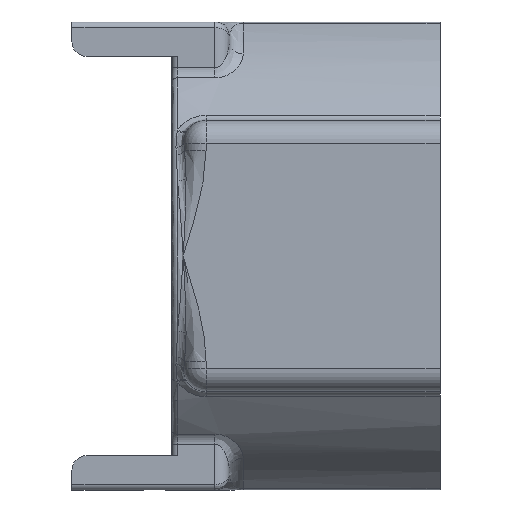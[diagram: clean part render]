
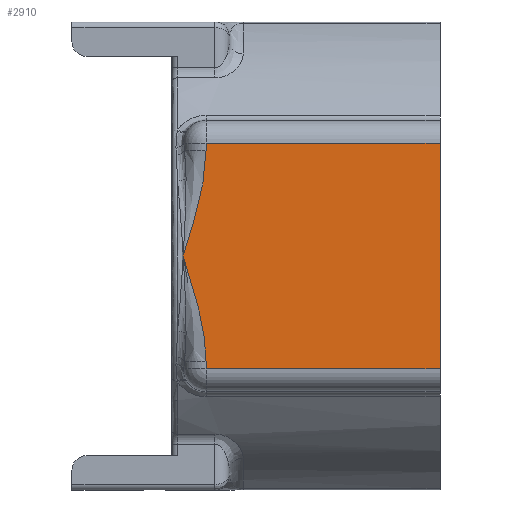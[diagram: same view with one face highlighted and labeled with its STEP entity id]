
A CAD part, front view. The second image highlights one B-rep face of the part: STEP entity #2910.
In plain terms, the highlighted planar face has unit normal (0, -1, 0).
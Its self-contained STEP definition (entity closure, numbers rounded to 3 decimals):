
#33 = ORIENTED_EDGE ( 'NONE', *, *, #1762, .T. ) ;
#42 = CARTESIAN_POINT ( 'NONE',  ( 8.531, -89., 15.138 ) ) ;
#95 = AXIS2_PLACEMENT_3D ( 'NONE', #3585, #2462, #3607 ) ;
#109 = CARTESIAN_POINT ( 'NONE',  ( 5.182, -89., 3.77 ) ) ;
#139 = CARTESIAN_POINT ( 'NONE',  ( 12., -89., 39.5 ) ) ;
#229 = EDGE_CURVE ( 'NONE', #1989, #2145, #2976, .T. ) ;
#300 = ORIENTED_EDGE ( 'NONE', *, *, #1940, .F. ) ;
#394 = LINE ( 'NONE', #1895, #2794 ) ;
#405 = CARTESIAN_POINT ( 'NONE',  ( 6.346, -89., 7.545 ) ) ;
#474 = CARTESIAN_POINT ( 'NONE',  ( 4., -89., 0. ) ) ;
#507 = ORIENTED_EDGE ( 'NONE', *, *, #229, .T. ) ;
#508 = FACE_OUTER_BOUND ( 'NONE', #1659, .T. ) ;
#517 = ORIENTED_EDGE ( 'NONE', *, *, #572, .T. ) ;
#518 = CARTESIAN_POINT ( 'NONE',  ( 4., -89., -39.5 ) ) ;
#529 = CARTESIAN_POINT ( 'NONE',  ( 8.531, -89., -15.138 ) ) ;
#572 = EDGE_CURVE ( 'NONE', #759, #3595, #2832, .T. ) ;
#598 = EDGE_CURVE ( 'NONE', #3595, #2227, #2343, .T. ) ;
#616 = CARTESIAN_POINT ( 'NONE',  ( 12., -89., -36.878 ) ) ;
#635 = CARTESIAN_POINT ( 'NONE',  ( 4.118, -89., 0.375 ) ) ;
#677 = VECTOR ( 'NONE', #1278, 1000. ) ;
#759 = VERTEX_POINT ( 'NONE', #616 ) ;
#933 = CARTESIAN_POINT ( 'NONE',  ( 12., -89., 35.286 ) ) ;
#937 = CARTESIAN_POINT ( 'NONE',  ( 4., -89., 0. ) ) ;
#945 = CARTESIAN_POINT ( 'NONE',  ( 7.688, -89., 12.091 ) ) ;
#966 = CARTESIAN_POINT ( 'NONE',  ( 11.643, -89., 30.566 ) ) ;
#979 = CARTESIAN_POINT ( 'NONE',  ( 8.935, -89., 16.667 ) ) ;
#1021 = CARTESIAN_POINT ( 'NONE',  ( 94., -89., -39.5 ) ) ;
#1085 = CARTESIAN_POINT ( 'NONE',  ( 11.446, -89., -29.005 ) ) ;
#1093 = CARTESIAN_POINT ( 'NONE',  ( 94., -89., 47.5 ) ) ;
#1129 = VECTOR ( 'NONE', #1971, 1000. ) ;
#1278 = DIRECTION ( 'NONE',  ( 0., 0., -1. ) ) ;
#1316 = CARTESIAN_POINT ( 'NONE',  ( 4.948, -89., -3.015 ) ) ;
#1345 = LINE ( 'NONE', #1093, #3367 ) ;
#1396 = CARTESIAN_POINT ( 'NONE',  ( 11.92, -89., -33.706 ) ) ;
#1399 = B_SPLINE_CURVE_WITH_KNOTS ( 'NONE', 3,
 ( #474, #1316, #3048, #3393, #2801, #529, #2514, #1663, #3139, #1085, #1670, #1396, #2821, #3669 ),
 .UNSPECIFIED., .F., .F.,
 ( 4, 2, 2, 2, 2, 2, 4 ),
 ( 0., 0.009, 0.014, 0.019, 0.028, 0.033, 0.038 ),
 .UNSPECIFIED. ) ;
#1460 = VECTOR ( 'NONE', #2114, 1000. ) ;
#1566 = DIRECTION ( 'NONE',  ( 0., 0., -1. ) ) ;
#1573 = EDGE_CURVE ( 'NONE', #3521, #3341, #2017, .T. ) ;
#1659 = EDGE_LOOP ( 'NONE', ( #517, #2750, #300, #507, #1747, #2986, #33 ) ) ;
#1663 = CARTESIAN_POINT ( 'NONE',  ( 10.069, -89., -21.263 ) ) ;
#1670 = CARTESIAN_POINT ( 'NONE',  ( 11.643, -89., -30.566 ) ) ;
#1747 = ORIENTED_EDGE ( 'NONE', *, *, #2478, .T. ) ;
#1762 = EDGE_CURVE ( 'NONE', #3341, #759, #1399, .T. ) ;
#1805 = CARTESIAN_POINT ( 'NONE',  ( 7.248, -89., 10.574 ) ) ;
#1895 = CARTESIAN_POINT ( 'NONE',  ( 12., -89., 0. ) ) ;
#1940 = EDGE_CURVE ( 'NONE', #1989, #2227, #1345, .T. ) ;
#1971 = DIRECTION ( 'NONE',  ( 1., 0., 0. ) ) ;
#1989 = VERTEX_POINT ( 'NONE', #3204 ) ;
#2017 = B_SPLINE_CURVE_WITH_KNOTS ( 'NONE', 3,
 ( #3396, #933, #2085, #966, #3264, #2732, #3322, #979, #42, #945, #1805, #405, #2692, #109, #2536, #3683, #3529, #635, #937 ),
 .UNSPECIFIED., .F., .F.,
 ( 4, 2, 2, 2, 2, 2, 2, 1, 2, 4 ),
 ( 0., 0.005, 0.009, 0.019, 0.024, 0.028, 0.033, 0.035, 0.037, 0.038 ),
 .UNSPECIFIED. ) ;
#2085 = CARTESIAN_POINT ( 'NONE',  ( 11.92, -89., 33.706 ) ) ;
#2114 = DIRECTION ( 'NONE',  ( -1., 0., 0. ) ) ;
#2145 = VERTEX_POINT ( 'NONE', #139 ) ;
#2161 = CARTESIAN_POINT ( 'NONE',  ( 12., -89., -47.5 ) ) ;
#2227 = VERTEX_POINT ( 'NONE', #1021 ) ;
#2343 = LINE ( 'NONE', #518, #1129 ) ;
#2462 = DIRECTION ( 'NONE',  ( 0., -1., 0. ) ) ;
#2478 = EDGE_CURVE ( 'NONE', #2145, #3521, #394, .T. ) ;
#2494 = CARTESIAN_POINT ( 'NONE',  ( 4., -89., 0. ) ) ;
#2514 = CARTESIAN_POINT ( 'NONE',  ( 8.935, -89., -16.667 ) ) ;
#2536 = CARTESIAN_POINT ( 'NONE',  ( 4.828, -89., 2.638 ) ) ;
#2692 = CARTESIAN_POINT ( 'NONE',  ( 5.884, -89., 6.034 ) ) ;
#2726 = CARTESIAN_POINT ( 'NONE',  ( 12., -89., -39.5 ) ) ;
#2731 = PLANE ( 'NONE',  #95 ) ;
#2732 = CARTESIAN_POINT ( 'NONE',  ( 10.725, -89., 24.343 ) ) ;
#2750 = ORIENTED_EDGE ( 'NONE', *, *, #598, .T. ) ;
#2794 = VECTOR ( 'NONE', #1566, 1000. ) ;
#2801 = CARTESIAN_POINT ( 'NONE',  ( 7.688, -89., -12.092 ) ) ;
#2821 = CARTESIAN_POINT ( 'NONE',  ( 12., -89., -35.286 ) ) ;
#2832 = LINE ( 'NONE', #2161, #677 ) ;
#2910 = ADVANCED_FACE ( 'NONE', ( #508 ), #2731, .T. ) ;
#2976 = LINE ( 'NONE', #3024, #1460 ) ;
#2986 = ORIENTED_EDGE ( 'NONE', *, *, #1573, .T. ) ;
#3024 = CARTESIAN_POINT ( 'NONE',  ( 4., -89., 39.5 ) ) ;
#3048 = CARTESIAN_POINT ( 'NONE',  ( 5.895, -89., -6.03 ) ) ;
#3128 = DIRECTION ( 'NONE',  ( 0., 0., -1. ) ) ;
#3139 = CARTESIAN_POINT ( 'NONE',  ( 10.725, -89., -24.343 ) ) ;
#3204 = CARTESIAN_POINT ( 'NONE',  ( 94., -89., 39.5 ) ) ;
#3264 = CARTESIAN_POINT ( 'NONE',  ( 11.446, -89., 29.005 ) ) ;
#3322 = CARTESIAN_POINT ( 'NONE',  ( 10.069, -89., 21.263 ) ) ;
#3341 = VERTEX_POINT ( 'NONE', #2494 ) ;
#3367 = VECTOR ( 'NONE', #3128, 1000. ) ;
#3393 = CARTESIAN_POINT ( 'NONE',  ( 7.248, -89., -10.574 ) ) ;
#3396 = CARTESIAN_POINT ( 'NONE',  ( 12., -89., 36.878 ) ) ;
#3469 = CARTESIAN_POINT ( 'NONE',  ( 12., -89., 36.878 ) ) ;
#3521 = VERTEX_POINT ( 'NONE', #3469 ) ;
#3529 = CARTESIAN_POINT ( 'NONE',  ( 4.237, -89., 0.754 ) ) ;
#3585 = CARTESIAN_POINT ( 'NONE',  ( 4., -89., 47.5 ) ) ;
#3595 = VERTEX_POINT ( 'NONE', #2726 ) ;
#3607 = DIRECTION ( 'NONE',  ( 0., 0., -1. ) ) ;
#3669 = CARTESIAN_POINT ( 'NONE',  ( 12., -89., -36.878 ) ) ;
#3683 = CARTESIAN_POINT ( 'NONE',  ( 4.474, -89., 1.507 ) ) ;
